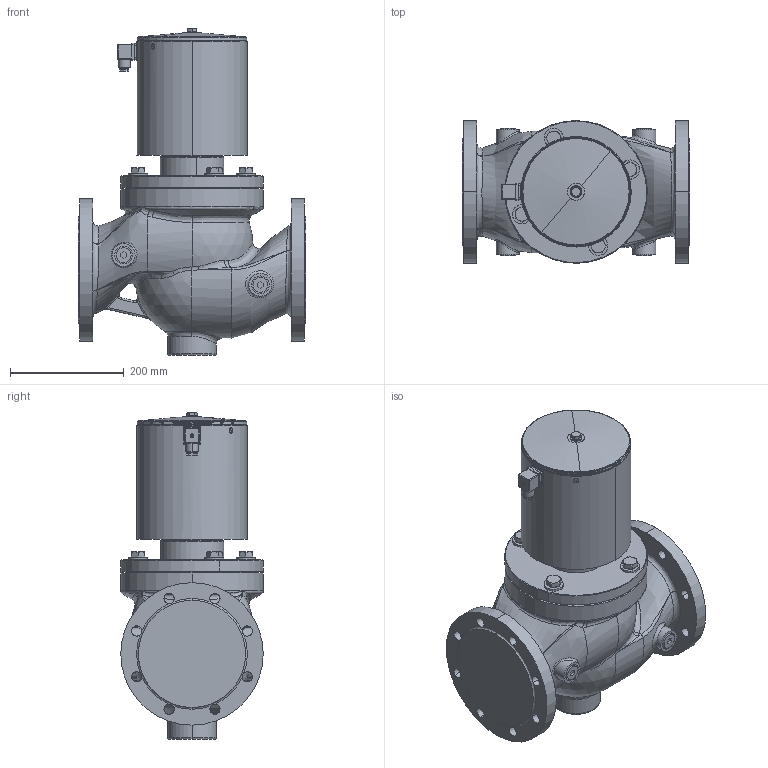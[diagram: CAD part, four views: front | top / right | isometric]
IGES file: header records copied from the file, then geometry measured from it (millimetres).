
Global section: file name: No Iges File Name specified; native system: AutoDesk Inventor R12.0; preprocessor: AutoDesk Inventor Iges Exporter R12.0; date: 20100510.075606; units: millimetre
Bounding box: 400 x 250 x 573.41 mm (x, y, z)
Volume: 22340305.8 mm3; surface area: 805644.9 mm2
Topology: 1 solids, 1 shells, 539 faces, 1370 edges, 852 vertices
Faces by surface type: plane 208, bspline 130, cylinder 109, cone 48, revolution 24, torus 14, sphere 6
